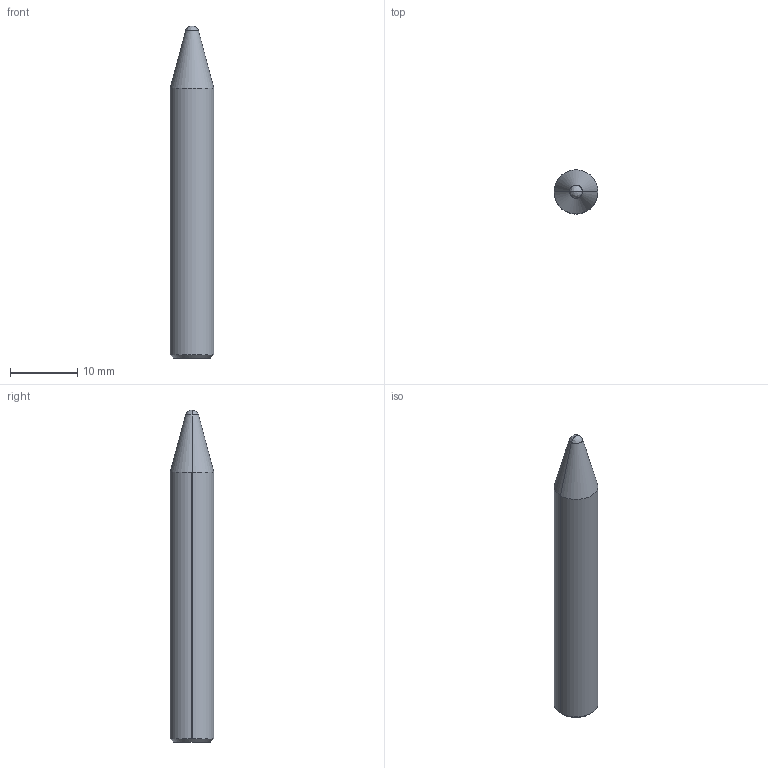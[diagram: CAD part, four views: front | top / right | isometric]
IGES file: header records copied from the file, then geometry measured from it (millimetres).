
Global section: file name: E:\UnigraphicsGraphicData\MISUMI_PRESS-PARTS\IGES\3d_snsth6-p6.50-b40_02972_r00.igs; native system: NX V5.0; preprocessor: UGS NX IGES V5.0; author: MISUMI; date: 20110105.162856; units: millimetre
Bounding box: 6.5 x 6.5 x 49.27 mm (x, y, z)
Surface area: 1065.8 mm2 (no closed solid volume)
Topology: 0 solids, 0 shells, 12 faces, 64 edges, 62 vertices
Faces by surface type: bspline 12
